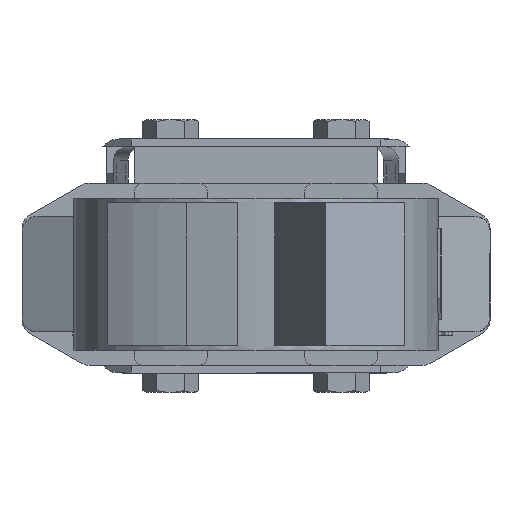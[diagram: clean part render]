
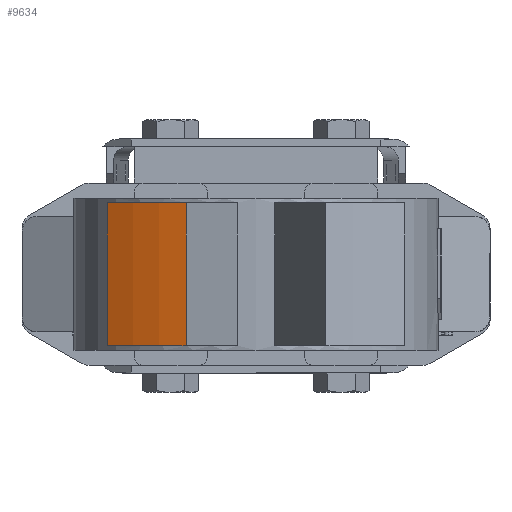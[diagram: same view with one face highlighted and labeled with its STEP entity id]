
A CAD part, front view. The second image highlights one B-rep face of the part: STEP entity #9634.
In plain terms, the highlighted cylindrical face has radius 95 mm (diameter 190 mm), a partial arc.
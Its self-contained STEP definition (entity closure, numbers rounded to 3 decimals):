
#1610 = EDGE_CURVE ( 'NONE', #1616, #1720, #17885, .T. ) ;
#1616 = VERTEX_POINT ( 'NONE', #17876 ) ;
#1705 = EDGE_CURVE ( 'NONE', #1709, #1711, #17989, .T. ) ;
#1709 = VERTEX_POINT ( 'NONE', #17979 ) ;
#1711 = VERTEX_POINT ( 'NONE', #17978 ) ;
#1720 = VERTEX_POINT ( 'NONE', #18040 ) ;
#5448 = EDGE_CURVE ( 'NONE', #1711, #1720, #18988, .T. ) ;
#5499 = ORIENTED_EDGE ( 'NONE', *, *, #1705, .T. ) ;
#5501 = ORIENTED_EDGE ( 'NONE', *, *, #5448, .T. ) ;
#9634 = ADVANCED_FACE ( 'NONE', ( #19096 ), #19095, .T. ) ;
#9715 = ORIENTED_EDGE ( 'NONE', *, *, #9718, .F. ) ;
#9718 = EDGE_CURVE ( 'NONE', #1709, #1616, #19257, .T. ) ;
#9720 = EDGE_LOOP ( 'NONE', ( #9723, #9715, #5499, #5501 ) ) ;
#9723 = ORIENTED_EDGE ( 'NONE', *, *, #1610, .F. ) ;
#17876 = CARTESIAN_POINT ( 'NONE',  ( -23.024, -92.168, -23.5 ) ) ;
#17881 = DIRECTION ( 'NONE',  ( 1., 0., 0. ) ) ;
#17882 = DIRECTION ( 'NONE',  ( 0., 0., -1. ) ) ;
#17883 = CARTESIAN_POINT ( 'NONE',  ( 0., 0., -23.5 ) ) ;
#17884 = AXIS2_PLACEMENT_3D ( 'NONE', #17883, #17882, #17881 ) ;
#17885 = CIRCLE ( 'NONE', #17884, 95. ) ;
#17978 = CARTESIAN_POINT ( 'NONE',  ( -48.892, -81.453, 23.5 ) ) ;
#17979 = CARTESIAN_POINT ( 'NONE',  ( -23.024, -92.168, 23.5 ) ) ;
#17985 = DIRECTION ( 'NONE',  ( 1., 0., 0. ) ) ;
#17986 = DIRECTION ( 'NONE',  ( 0., 0., -1. ) ) ;
#17987 = CARTESIAN_POINT ( 'NONE',  ( 0., 0., 23.5 ) ) ;
#17988 = AXIS2_PLACEMENT_3D ( 'NONE', #17987, #17986, #17985 ) ;
#17989 = CIRCLE ( 'NONE', #17988, 95. ) ;
#18040 = CARTESIAN_POINT ( 'NONE',  ( -48.892, -81.453, -23.5 ) ) ;
#18985 = DIRECTION ( 'NONE',  ( 0., 0., -1. ) ) ;
#18986 = VECTOR ( 'NONE', #18985, 1000. ) ;
#18987 = CARTESIAN_POINT ( 'NONE',  ( -48.892, -81.453, 23.5 ) ) ;
#18988 = LINE ( 'NONE', #18987, #18986 ) ;
#19094 = CARTESIAN_POINT ( 'NONE',  ( 0., 0., 23.5 ) ) ;
#19095 = CYLINDRICAL_SURFACE ( 'NONE', #19154, 95. ) ;
#19096 = FACE_OUTER_BOUND ( 'NONE', #9720, .T. ) ;
#19152 = DIRECTION ( 'NONE',  ( -1., 0., 0. ) ) ;
#19153 = DIRECTION ( 'NONE',  ( 0., 0., -1. ) ) ;
#19154 = AXIS2_PLACEMENT_3D ( 'NONE', #19094, #19153, #19152 ) ;
#19254 = DIRECTION ( 'NONE',  ( 0., 0., -1. ) ) ;
#19255 = VECTOR ( 'NONE', #19254, 1000. ) ;
#19256 = CARTESIAN_POINT ( 'NONE',  ( -23.024, -92.168, 23.5 ) ) ;
#19257 = LINE ( 'NONE', #19256, #19255 ) ;
